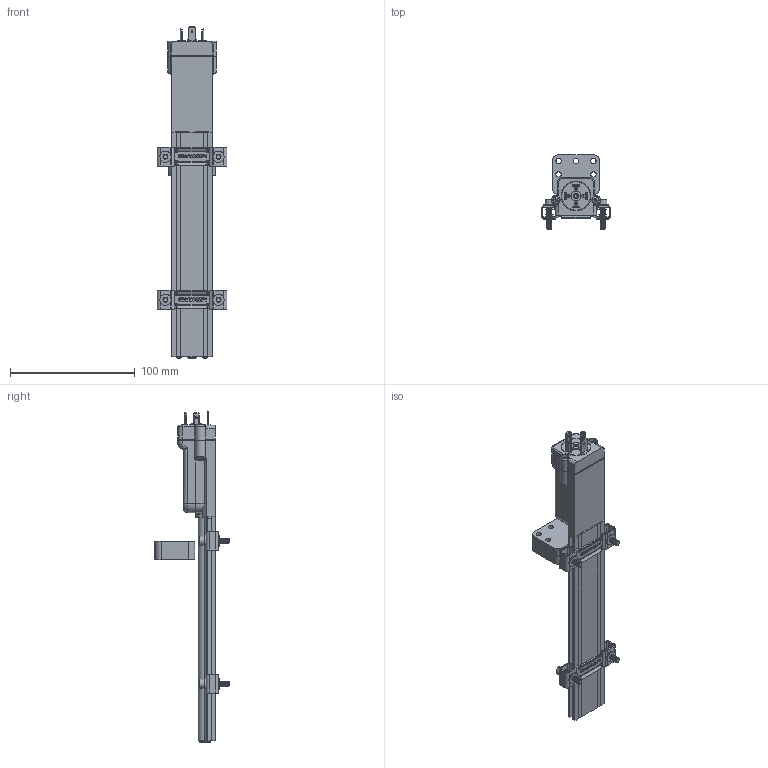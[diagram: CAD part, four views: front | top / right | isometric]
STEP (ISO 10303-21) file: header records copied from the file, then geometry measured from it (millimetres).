
FILE_DESCRIPTION (( 'STEP AP214' ), '1' );
FILE_NAME ('OMS2 100.STEP', '2019-06-05T12:13:10', ( '' ), ( '' ), 'SwSTEP 2.0', 'SolidWorks 2017', '' );
FILE_SCHEMA (( 'AUTOMOTIVE_DESIGN' ));
Length unit declared in the file: millimetre
Products named in the file (18): RON004x; STA172x; CTT010x; GUA139x; CUS007x; INS004x; magnetex; GUA134x; CTT011x; OMS2 100; PTES153x; TAP022x; TAP021x; MIM886x_ISO 4762 M4 x 20 --- 20S; CUS489x; TES149x; MIM500x_DIN 6798-J4.3; MIM866x_Tapping screw DIN 7049-ST2.9x16-F-H-S
Assembly tree (35 placements, depth 3):
  OMS2 100
    CUS489x
    GUA134x
    CUS007x
    TAP022x  x2
    MIM866x_Tapping screw DIN 7049-ST2.9x16-F-H-S  x2
    PTES153x
      TES149x
      INS004x
      CTT010x  x3
      GUA139x
      CTT011x
    TAP021x
    magnetex
    STA172x  x2
    RON004x  x8
    MIM500x_DIN 6798-J4.3  x4
    MIM886x_ISO 4762 M4 x 20 --- 20S  x4
Bounding box: 56 x 59.5 x 266 mm (x, y, z)
Volume: 123807.6 mm3; surface area: 56654.7 mm2
Topology: 34 solids, 34 shells, 1697 faces, 4173 edges, 2545 vertices
Faces by surface type: plane 787, cylinder 366, cone 294, bspline 231, torus 17, sphere 2
Full cylindrical faces by diameter (mm): 1.5 x3, 1.6 x1, 1.65 x3, 2.18 x34, 2.5 x1, 2.8 x1, 2.85 x2, 2.9 x2, 3 x5, 3.2 x2, 3.5 x2, 3.94 x3, 4 x109, 4.3 x9, 5.3 x3, 5.7 x2, 5.8 x8, 5.9 x4, 6 x8, 7 x5, 8 x5, 9 x8
Entity records: 30530 total; most frequent: CARTESIAN_POINT 10262, ORIENTED_EDGE 3956, DIRECTION 3740, EDGE_CURVE 1978, VERTEX_POINT 1363, VECTOR 1260, LINE 1260, AXIS2_PLACEMENT_3D 1240
